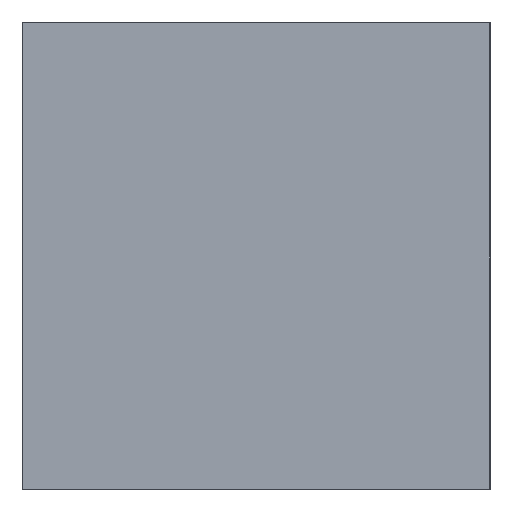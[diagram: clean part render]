
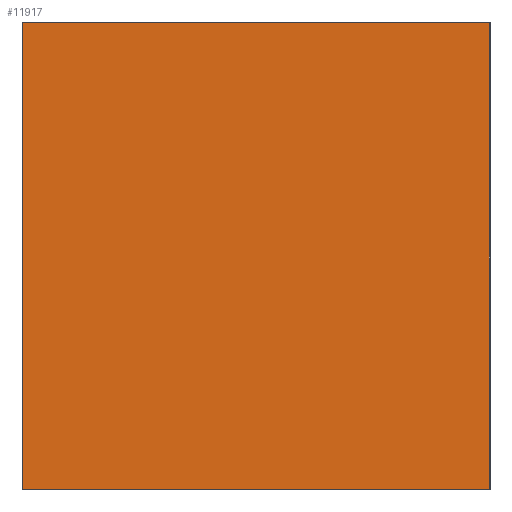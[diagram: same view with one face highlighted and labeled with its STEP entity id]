
A CAD part, top view. The second image highlights one B-rep face of the part: STEP entity #11917.
In plain terms, the highlighted planar face has unit normal (0, 0, 1).
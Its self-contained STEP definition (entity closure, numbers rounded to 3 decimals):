
#11878=CARTESIAN_POINT('',(0.,0.,20.));
#11879=DIRECTION('',(1.,0.,0.));
#11880=DIRECTION('',(0.,0.,1.));
#11881=AXIS2_PLACEMENT_3D('',#11878,#11880,#11879);
#11882=PLANE('',#11881);
#11883=CARTESIAN_POINT('',(498.5,-498.5,20.));
#11884=VERTEX_POINT('',#11883);
#11885=CARTESIAN_POINT('',(498.5,498.5,20.));
#11886=VERTEX_POINT('',#11885);
#11887=CARTESIAN_POINT('',(498.5,-498.5,20.));
#11888=DIRECTION('',(0.,1.,0.));
#11889=VECTOR('',#11888,997.);
#11890=LINE('',#11887,#11889);
#11891=EDGE_CURVE('',#11884,#11886,#11890,.T.);
#11892=ORIENTED_EDGE('E118',*,*,#11891,.T.);
#11893=CARTESIAN_POINT('',(-498.5,498.5,20.));
#11894=VERTEX_POINT('',#11893);
#11895=CARTESIAN_POINT('',(498.5,498.5,20.));
#11896=DIRECTION('',(-1.,0.,0.));
#11897=VECTOR('',#11896,997.);
#11898=LINE('',#11895,#11897);
#11899=EDGE_CURVE('',#11886,#11894,#11898,.T.);
#11900=ORIENTED_EDGE('E119',*,*,#11899,.T.);
#11901=CARTESIAN_POINT('',(-498.5,-498.5,20.));
#11902=VERTEX_POINT('',#11901);
#11903=CARTESIAN_POINT('',(-498.5,498.5,20.));
#11904=DIRECTION('',(0.,-1.,0.));
#11905=VECTOR('',#11904,997.);
#11906=LINE('',#11903,#11905);
#11907=EDGE_CURVE('',#11894,#11902,#11906,.T.);
#11908=ORIENTED_EDGE('E120',*,*,#11907,.T.);
#11909=CARTESIAN_POINT('',(-498.5,-498.5,20.));
#11910=DIRECTION('',(1.,0.,0.));
#11911=VECTOR('',#11910,997.);
#11912=LINE('',#11909,#11911);
#11913=EDGE_CURVE('',#11902,#11884,#11912,.T.);
#11914=ORIENTED_EDGE('E117',*,*,#11913,.T.);
#11915=EDGE_LOOP('',(#11892,#11900,#11908,#11914));
#11916=FACE_OUTER_BOUND('',#11915,.T.);
#11917=ADVANCED_FACE('F2',(#11916),#11882,.T.);
